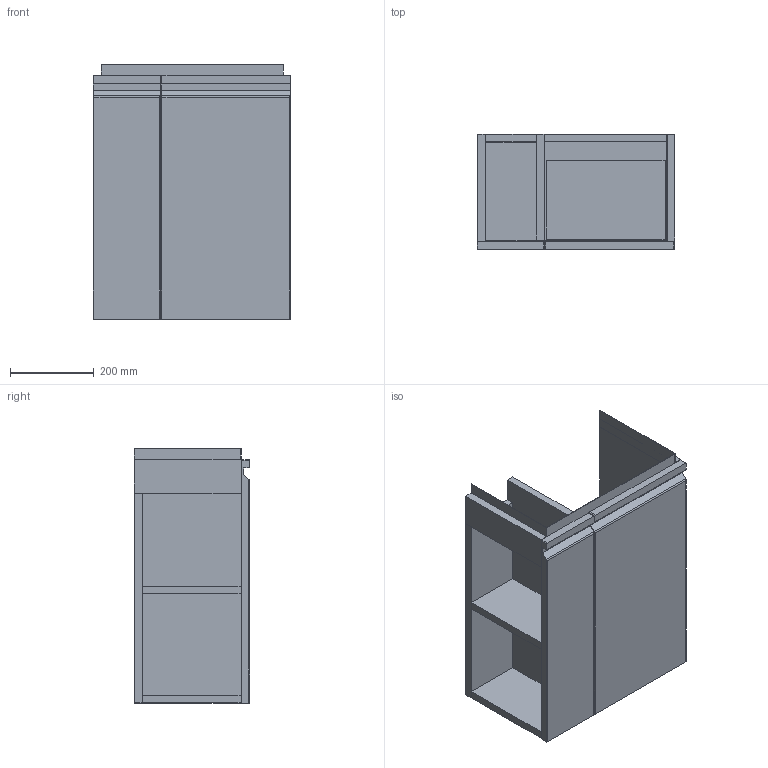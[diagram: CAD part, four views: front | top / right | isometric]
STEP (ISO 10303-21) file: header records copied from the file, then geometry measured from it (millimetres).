
FILE_DESCRIPTION(/* description */ (''),/* implementation_level */ '2;1');
FILE_NAME(/* name */ '3D10B4~1',/* time_stamp */ '2018-05-14T08:53:11+02:00',/* author */ (''),/* organization */ (''),/* preprocessor_version */ 'ST-DEVELOPER v15',/* originating_system */ '',/* authorisation */ '');
FILE_SCHEMA (('AUTOMOTIVE_DESIGN'));
Length unit declared in the file: millimetre
Products named in the file (13): Document; lavamani dx_11; lavamani dx_10; lavamani dx_9; lavamani dx_8; lavamani dx_7; lavamani dx_6; lavamani dx_5; lavamani dx_4; lavamani dx_3; lavamani dx_2; lavamani dx_1; lavamani dx
Assembly tree (12 placements, depth 2):
  Document
    lavamani dx_11
    lavamani dx_10
    lavamani dx_9
    lavamani dx_8
    lavamani dx_7
    lavamani dx_6
    lavamani dx_5
    lavamani dx_4
    lavamani dx_3
    lavamani dx_2
    lavamani dx_1
    lavamani dx
Bounding box: 471 x 274.5 x 605.5 mm (x, y, z)
Volume: 15240618.1 mm3; surface area: 2048147 mm2
Topology: 12 solids, 12 shells, 108 faces, 248 edges, 164 vertices
Faces by surface type: plane 84, bspline 24
Entity records: 6159 total; most frequent: CARTESIAN_POINT 3953, ORIENTED_EDGE 496, EDGE_CURVE 248, B_SPLINE_CURVE_WITH_KNOTS 220, VERTEX_POINT 164, DIRECTION 158, AXIS2_PLACEMENT_3D 121, ADVANCED_FACE 108
